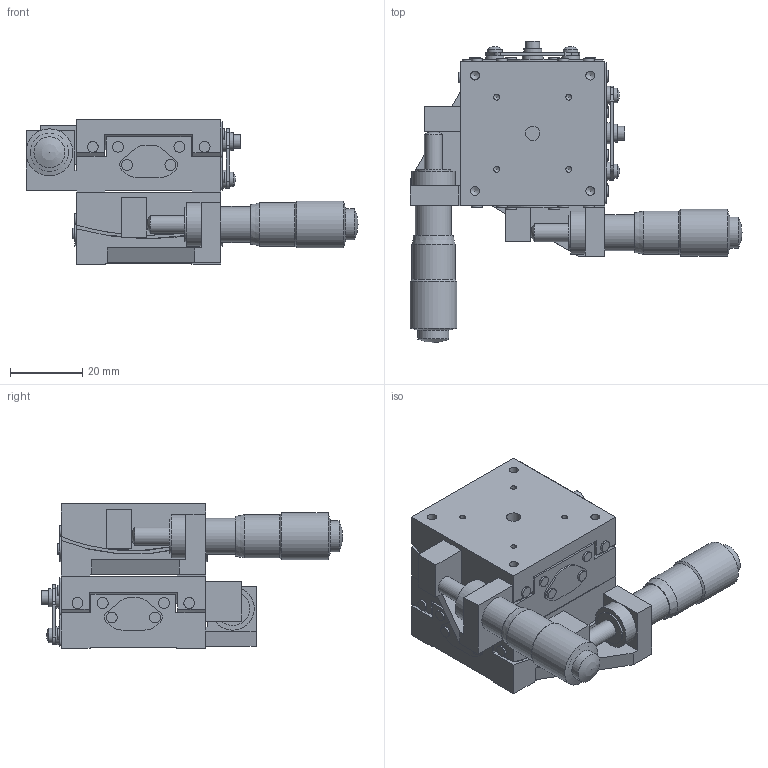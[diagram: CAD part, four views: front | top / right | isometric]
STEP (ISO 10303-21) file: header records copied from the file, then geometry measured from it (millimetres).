
FILE_DESCRIPTION( ( 'STEP AP203' ), '1' );
FILE_NAME( 'C:/Documents and Settings/09371/デスクトップ/CAD-ORG-STEP-DATA-3D簡素化依頼/3D_DATA_STEP/B59-40.step', '2007-02-09T05:24:59', ( ' ' ), ( ' ' ), 'XStep 1.0', ' ', ' ' );
FILE_SCHEMA( ( 'CONFIG_CONTROL_DESIGN' ) );
Length unit declared in the file: millimetre
Products named in the file (6): 1; 2; 3; 4; 5; 6
Bounding box: 92 x 83.5 x 40 mm (x, y, z)
Volume: 72931.5 mm3; surface area: 35767.1 mm2
Topology: 6 solids, 6 shells, 433 faces, 1066 edges, 706 vertices
Faces by surface type: plane 209, cylinder 194, cone 22, sphere 8
Full cylindrical faces by diameter (mm): 1.6 x16, 2 x2, 2.5 x16, 3 x32, 3.5 x8, 3.8 x2, 4 x8, 5 x10, 5.8 x2, 6 x8, 8.6 x2, 9.5 x2, 10 x2, 10.5 x2, 12 x4, 13 x2
Entity records: 12225 total; most frequent: CARTESIAN_POINT 2426, DIRECTION 2075, ORIENTED_EDGE 1664, EDGE_CURVE 832, AXIS2_PLACEMENT_3D 821, EDGE_LOOP 670, VERTEX_POINT 636, FACE_OUTER_BOUND 551
